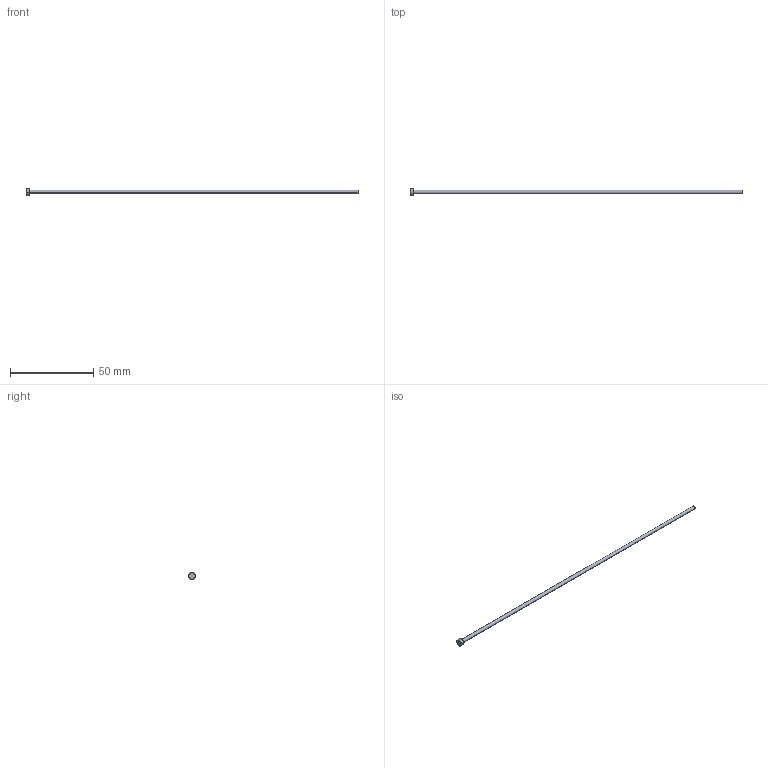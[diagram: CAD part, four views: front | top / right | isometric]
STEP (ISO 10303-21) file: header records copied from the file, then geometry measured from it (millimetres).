
FILE_DESCRIPTION (( 'STEP AP214' ), '1' );
FILE_NAME ('A-2,2x200.STEP', '2020-05-28T16:53:21', ( 'August' ), ( '' ), 'SwSTEP 2.0', 'SolidWorks 2018', '' );
FILE_SCHEMA (( 'AUTOMOTIVE_DESIGN' ));
Length unit declared in the file: millimetre
Products named in the file (1): A-2,2x200
Bounding box: 200 x 4 x 4 mm (x, y, z)
Volume: 777.9 mm3; surface area: 1418.2 mm2
Topology: 1 solids, 1 shells, 9 faces, 16 edges, 10 vertices
Faces by surface type: cylinder 4, plane 3, torus 2
Entity records: 260 total; most frequent: DIRECTION 48, CARTESIAN_POINT 36, ORIENTED_EDGE 32, AXIS2_PLACEMENT_3D 22, EDGE_CURVE 16, CIRCLE 12, EDGE_LOOP 10, VERTEX_POINT 10
